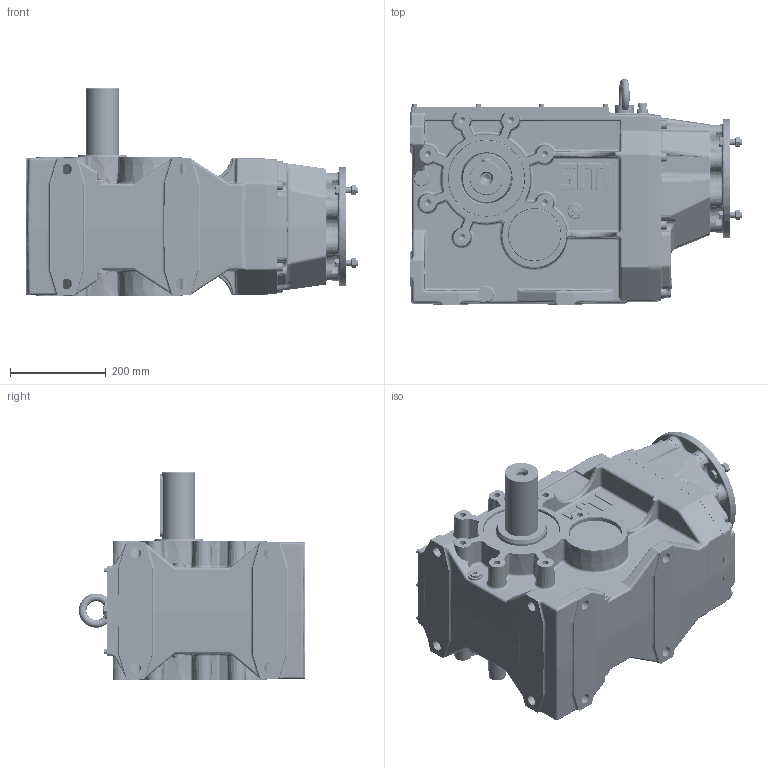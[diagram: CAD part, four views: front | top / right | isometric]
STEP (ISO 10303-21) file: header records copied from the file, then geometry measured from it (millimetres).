
FILE_DESCRIPTION((''),'2;1');
FILE_NAME('C:\Users\m.piscopiello.SITIRIDUTTORI\Desktop\3D x SITO\MBH 140 PAM 100-112\MBH_140 MS-B PAM 100-112 B5.stp','2013-05-24T17:05:36',('m.piscopiello'),(''),'Autodesk Inventor 2012','Autodesk Inventor 2012','');
FILE_SCHEMA(('CONFIG_CONTROL_DESIGN'));
Length unit declared in the file: millimetre
Products named in the file (1): MBH_140 MS-B PAM 100-112 B5
Bounding box: 695 x 473.99 x 435 mm (x, y, z)
Volume: 19683709.6 mm3; surface area: 2769122 mm2
Topology: 68 solids, 70 shells, 4241 faces, 10167 edges, 6059 vertices
Faces by surface type: plane 1179, cylinder 1138, bspline 921, torus 473, cone 389, sphere 141
Full cylindrical faces by diameter (mm): 3.15 x2, 3.5 x2, 4.917 x10, 6 x20, 6.4 x10, 7 x10, 10 x10, 10.106 x16, 12 x54, 12.5 x12, 13 x16, 13.835 x15, 14 x4, 14.95 x2, 16 x1, 16.6 x6, 17 x1, 17.294 x3, 17.835 x1, 18 x16, 19.5 x1, 20.5 x16, 21 x1, 22 x9, 25 x1, 26 x1, 30 x3, 38 x1, 40 x1, 70 x1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
Entity records: 162393 total; most frequent: CARTESIAN_POINT 68819, ORIENTED_EDGE 18366, DIRECTION 17704, EDGE_CURVE 9183, AXIS2_PLACEMENT_3D 7525, VERTEX_POINT 5786, EDGE_LOOP 5073, STYLED_ITEM 4308
